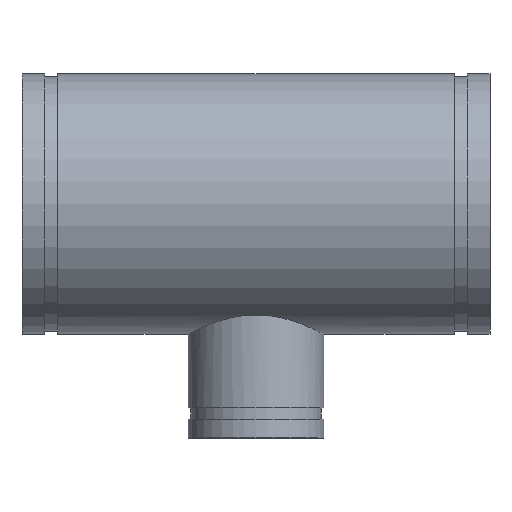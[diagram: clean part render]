
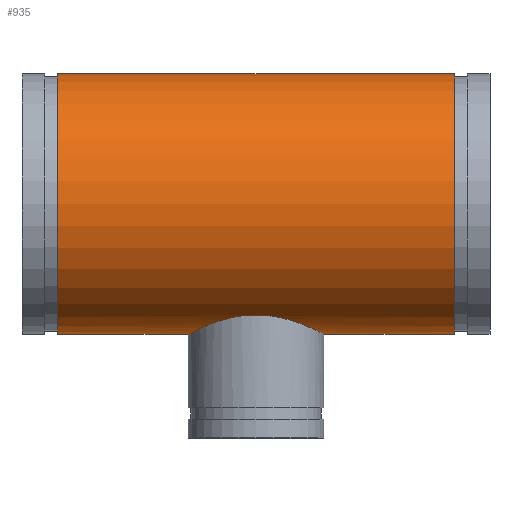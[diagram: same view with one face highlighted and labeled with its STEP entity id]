
A CAD part, top view. The second image highlights one B-rep face of the part: STEP entity #935.
In plain terms, the highlighted cylindrical face has radius 109.537 mm (diameter 219.075 mm), a full revolution.
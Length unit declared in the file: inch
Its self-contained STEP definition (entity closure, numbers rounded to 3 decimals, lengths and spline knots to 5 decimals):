
#61=FACE_BOUND('',#222,.T.);
#67=B_SPLINE_CURVE_WITH_KNOTS('',3,(#1807,#1808,#1809,#1810,#1811,#1812,
#1813,#1814,#1815,#1816,#1817,#1818,#1819,#1820,#1821,#1822,#1823,#1824),
 .UNSPECIFIED.,.F.,.F.,(4,2,2,2,2,2,2,2,4),(0.,1.10251,2.20503,
3.30754,4.41005,5.50891,6.60776,7.70662,
8.80548),.UNSPECIFIED.);
#68=B_SPLINE_CURVE_WITH_KNOTS('',3,(#1825,#1826,#1827,#1828,#1829,#1830,
#1831,#1832,#1833,#1834,#1835,#1836,#1837,#1838,#1839,#1840,#1841,#1842,
#1843,#1844,#1845,#1846,#1847,#1848,#1849,#1850,#1851,#1852,#1853,#1854,
#1855,#1856,#1857,#1858,#1859,#1860,#1861,#1862,#1863,#1864,#1865,#1866,
#1867,#1868,#1869,#1870,#1871,#1872,#1873,#1874),.UNSPECIFIED.,.F.,.F.,
(4,2,2,2,2,2,2,2,2,2,2,2,2,2,2,2,2,2,2,2,2,2,2,2,4),(8.80548,9.90433,
11.00319,12.10205,13.20091,14.30342,15.40593,
16.50844,17.61096,18.71347,19.81598,20.91849,
22.02101,23.11986,24.21872,25.31758,26.41643,
27.51529,28.61415,29.713,30.81186,31.91437,
33.01689,34.1194,35.22191),.UNSPECIFIED.);
#81=CYLINDRICAL_SURFACE('',#1104,4.3125);
#103=LINE('',#1804,#125);
#125=VECTOR('',#1432,4.3125);
#171=FACE_OUTER_BOUND('',#221,.T.);
#221=EDGE_LOOP('',(#814,#815,#816,#817));
#222=EDGE_LOOP('',(#818,#819));
#326=CIRCLE('',#1087,4.3125);
#337=CIRCLE('',#1103,4.3125);
#424=VERTEX_POINT('',#1772);
#435=VERTEX_POINT('',#1801);
#436=VERTEX_POINT('',#1805);
#437=VERTEX_POINT('',#1806);
#552=EDGE_CURVE('',#424,#424,#326,.T.);
#565=EDGE_CURVE('',#435,#435,#337,.T.);
#566=EDGE_CURVE('',#435,#424,#103,.T.);
#567=EDGE_CURVE('',#436,#437,#67,.T.);
#568=EDGE_CURVE('',#437,#436,#68,.T.);
#814=ORIENTED_EDGE('',*,*,#565,.T.);
#815=ORIENTED_EDGE('',*,*,#566,.T.);
#816=ORIENTED_EDGE('',*,*,#552,.T.);
#817=ORIENTED_EDGE('',*,*,#566,.F.);
#818=ORIENTED_EDGE('',*,*,#567,.T.);
#819=ORIENTED_EDGE('',*,*,#568,.T.);
#935=ADVANCED_FACE('',(#171,#61),#81,.T.);
#1087=AXIS2_PLACEMENT_3D('',#1773,#1394,#1395);
#1103=AXIS2_PLACEMENT_3D('',#1802,#1428,#1429);
#1104=AXIS2_PLACEMENT_3D('',#1803,#1430,#1431);
#1394=DIRECTION('center_axis',(-1.,0.,0.));
#1395=DIRECTION('ref_axis',(0.,-1.,0.));
#1428=DIRECTION('center_axis',(1.,0.,0.));
#1429=DIRECTION('ref_axis',(0.,-1.,0.));
#1430=DIRECTION('center_axis',(-1.,0.,0.));
#1431=DIRECTION('ref_axis',(0.,-1.,0.));
#1432=DIRECTION('',(1.,0.,0.));
#1772=CARTESIAN_POINT('',(6.562,4.3125,0.));
#1773=CARTESIAN_POINT('Origin',(6.562,0.,0.));
#1801=CARTESIAN_POINT('',(-6.562,4.3125,0.));
#1802=CARTESIAN_POINT('Origin',(-6.562,0.,0.));
#1803=CARTESIAN_POINT('Origin',(7.75,0.,0.));
#1804=CARTESIAN_POINT('',(7.75,4.3125,0.));
#1805=CARTESIAN_POINT('',(0.,-3.67902,-2.25));
#1806=CARTESIAN_POINT('',(-2.25,-4.3125,0.));
#1807=CARTESIAN_POINT('Ctrl Pts',(0.,-3.67902,
-2.25));
#1808=CARTESIAN_POINT('Ctrl Pts',(-0.14469,-3.67902,
-2.25));
#1809=CARTESIAN_POINT('Ctrl Pts',(-0.2931,-3.6878,
-2.23583));
#1810=CARTESIAN_POINT('Ctrl Pts',(-0.5862,-3.72258,
-2.17743));
#1811=CARTESIAN_POINT('Ctrl Pts',(-0.73089,-3.74851,
-2.13323));
#1812=CARTESIAN_POINT('Ctrl Pts',(-1.00687,-3.81194,-2.01769));
#1813=CARTESIAN_POINT('Ctrl Pts',(-1.13844,-3.84942,-1.94626));
#1814=CARTESIAN_POINT('Ctrl Pts',(-1.38124,-3.92808,-1.78217));
#1815=CARTESIAN_POINT('Ctrl Pts',(-1.49249,-3.96919,-1.68949));
#1816=CARTESIAN_POINT('Ctrl Pts',(-1.68917,-4.04726,-1.49281));
#1817=CARTESIAN_POINT('Ctrl Pts',(-1.7818,-4.08713,-1.38173));
#1818=CARTESIAN_POINT('Ctrl Pts',(-1.94601,-4.16134,-1.13887));
#1819=CARTESIAN_POINT('Ctrl Pts',(-2.01761,-4.19564,-1.00707));
#1820=CARTESIAN_POINT('Ctrl Pts',(-2.13335,-4.2525,-0.73061));
#1821=CARTESIAN_POINT('Ctrl Pts',(-2.17758,-4.27509,-0.58567));
#1822=CARTESIAN_POINT('Ctrl Pts',(-2.23591,-4.30509,-0.29247));
#1823=CARTESIAN_POINT('Ctrl Pts',(-2.25,-4.3125,-0.14421));
#1824=CARTESIAN_POINT('Ctrl Pts',(-2.25,-4.3125,0.));
#1825=CARTESIAN_POINT('Ctrl Pts',(-2.25,-4.3125,0.));
#1826=CARTESIAN_POINT('Ctrl Pts',(-2.25,-4.3125,0.14421));
#1827=CARTESIAN_POINT('Ctrl Pts',(-2.23591,-4.30509,0.29247));
#1828=CARTESIAN_POINT('Ctrl Pts',(-2.17758,-4.27509,0.58567));
#1829=CARTESIAN_POINT('Ctrl Pts',(-2.13335,-4.2525,0.73061));
#1830=CARTESIAN_POINT('Ctrl Pts',(-2.01761,-4.19564,1.00707));
#1831=CARTESIAN_POINT('Ctrl Pts',(-1.94601,-4.16134,1.13887));
#1832=CARTESIAN_POINT('Ctrl Pts',(-1.7818,-4.08713,1.38173));
#1833=CARTESIAN_POINT('Ctrl Pts',(-1.68917,-4.04726,1.49281));
#1834=CARTESIAN_POINT('Ctrl Pts',(-1.49249,-3.96919,1.68949));
#1835=CARTESIAN_POINT('Ctrl Pts',(-1.38124,-3.92808,1.78217));
#1836=CARTESIAN_POINT('Ctrl Pts',(-1.13844,-3.84942,1.94626));
#1837=CARTESIAN_POINT('Ctrl Pts',(-1.00687,-3.81194,2.01769));
#1838=CARTESIAN_POINT('Ctrl Pts',(-0.73089,-3.74851,
2.13323));
#1839=CARTESIAN_POINT('Ctrl Pts',(-0.5862,-3.72258,
2.17743));
#1840=CARTESIAN_POINT('Ctrl Pts',(-0.2931,-3.6878,
2.23583));
#1841=CARTESIAN_POINT('Ctrl Pts',(-0.14469,-3.67902,
2.25));
#1842=CARTESIAN_POINT('Ctrl Pts',(0.14469,-3.67902,2.25));
#1843=CARTESIAN_POINT('Ctrl Pts',(0.2931,-3.6878,2.23583));
#1844=CARTESIAN_POINT('Ctrl Pts',(0.5862,-3.72258,2.17743));
#1845=CARTESIAN_POINT('Ctrl Pts',(0.73089,-3.74851,2.13323));
#1846=CARTESIAN_POINT('Ctrl Pts',(1.00687,-3.81194,2.01769));
#1847=CARTESIAN_POINT('Ctrl Pts',(1.13844,-3.84942,1.94626));
#1848=CARTESIAN_POINT('Ctrl Pts',(1.38124,-3.92808,1.78217));
#1849=CARTESIAN_POINT('Ctrl Pts',(1.49249,-3.96919,1.68949));
#1850=CARTESIAN_POINT('Ctrl Pts',(1.68917,-4.04726,1.49281));
#1851=CARTESIAN_POINT('Ctrl Pts',(1.7818,-4.08713,1.38173));
#1852=CARTESIAN_POINT('Ctrl Pts',(1.94601,-4.16134,1.13887));
#1853=CARTESIAN_POINT('Ctrl Pts',(2.01761,-4.19564,1.00707));
#1854=CARTESIAN_POINT('Ctrl Pts',(2.13335,-4.2525,0.73061));
#1855=CARTESIAN_POINT('Ctrl Pts',(2.17758,-4.27509,0.58567));
#1856=CARTESIAN_POINT('Ctrl Pts',(2.23591,-4.30509,0.29247));
#1857=CARTESIAN_POINT('Ctrl Pts',(2.25,-4.3125,0.14421));
#1858=CARTESIAN_POINT('Ctrl Pts',(2.25,-4.3125,-0.14421));
#1859=CARTESIAN_POINT('Ctrl Pts',(2.23591,-4.30509,-0.29247));
#1860=CARTESIAN_POINT('Ctrl Pts',(2.17758,-4.27509,-0.58567));
#1861=CARTESIAN_POINT('Ctrl Pts',(2.13335,-4.2525,-0.73061));
#1862=CARTESIAN_POINT('Ctrl Pts',(2.01761,-4.19564,-1.00707));
#1863=CARTESIAN_POINT('Ctrl Pts',(1.94601,-4.16134,-1.13887));
#1864=CARTESIAN_POINT('Ctrl Pts',(1.7818,-4.08713,-1.38173));
#1865=CARTESIAN_POINT('Ctrl Pts',(1.68917,-4.04726,-1.49281));
#1866=CARTESIAN_POINT('Ctrl Pts',(1.49249,-3.96919,-1.68949));
#1867=CARTESIAN_POINT('Ctrl Pts',(1.38124,-3.92808,-1.78217));
#1868=CARTESIAN_POINT('Ctrl Pts',(1.13844,-3.84942,-1.94626));
#1869=CARTESIAN_POINT('Ctrl Pts',(1.00687,-3.81194,-2.01769));
#1870=CARTESIAN_POINT('Ctrl Pts',(0.73089,-3.74851,-2.13323));
#1871=CARTESIAN_POINT('Ctrl Pts',(0.5862,-3.72258,-2.17743));
#1872=CARTESIAN_POINT('Ctrl Pts',(0.2931,-3.6878,-2.23583));
#1873=CARTESIAN_POINT('Ctrl Pts',(0.14469,-3.67902,-2.25));
#1874=CARTESIAN_POINT('Ctrl Pts',(0.,-3.67902,
-2.25));
